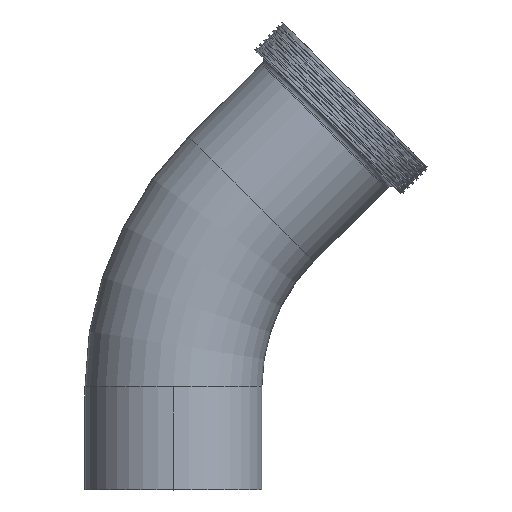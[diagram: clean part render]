
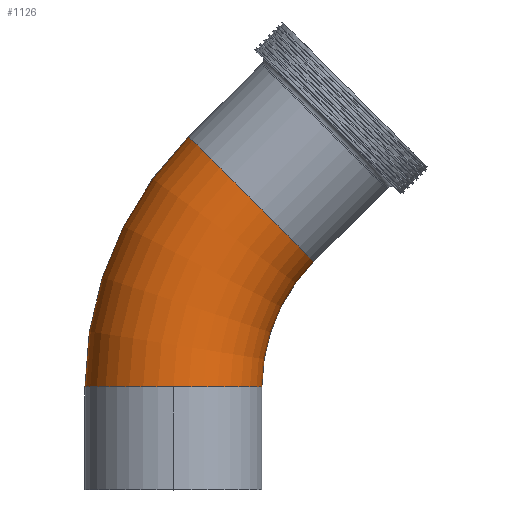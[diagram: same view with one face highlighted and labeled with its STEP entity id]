
A CAD part, top view. The second image highlights one B-rep face of the part: STEP entity #1126.
In plain terms, the highlighted toroidal (fillet/blend) face has major radius 152.4 mm and minor radius 50.8 mm.
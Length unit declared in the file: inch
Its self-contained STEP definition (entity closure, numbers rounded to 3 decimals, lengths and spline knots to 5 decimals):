
#73 = DIRECTION ( 'NONE',  ( -0.707, 0.707, 0. ) ) ;
#258 = ORIENTED_EDGE ( 'NONE', *, *, #944, .F. ) ;
#291 = CARTESIAN_POINT ( 'NONE',  ( 6., 2.32672, 0. ) ) ;
#528 = FACE_OUTER_BOUND ( 'NONE', #2184, .T. ) ;
#554 = CARTESIAN_POINT ( 'NONE',  ( 0., 2.32672, 0. ) ) ;
#565 = DIRECTION ( 'NONE',  ( 1., 0., 0. ) ) ;
#699 = ORIENTED_EDGE ( 'NONE', *, *, #1047, .T. ) ;
#782 = CIRCLE ( 'NONE', #2476, 2. ) ;
#786 = CARTESIAN_POINT ( 'NONE',  ( -2., 2.32672, 0. ) ) ;
#812 = DIRECTION ( 'NONE',  ( 0., 1., 0. ) ) ;
#824 = DIRECTION ( 'NONE',  ( -1., 0., 0. ) ) ;
#872 = EDGE_CURVE ( 'NONE', #1818, #3400, #2206, .T. ) ;
#896 = EDGE_CURVE ( 'NONE', #3400, #3071, #782, .T. ) ;
#944 = EDGE_CURVE ( 'NONE', #2891, #3071, #2118, .T. ) ;
#1047 = EDGE_CURVE ( 'NONE', #2396, #1818, #3406, .T. ) ;
#1112 = EDGE_CURVE ( 'NONE', #2396, #2891, #1245, .T. ) ;
#1113 = DIRECTION ( 'NONE',  ( 0., 0., 1. ) ) ;
#1120 = CARTESIAN_POINT ( 'NONE',  ( 0., 2.32672, 2. ) ) ;
#1126 = ADVANCED_FACE ( 'NONE', ( #528 ), #1957, .T. ) ;
#1245 = CIRCLE ( 'NONE', #2066, 2. ) ;
#1399 = DIRECTION ( 'NONE',  ( 0., 0., 1. ) ) ;
#1668 = DIRECTION ( 'NONE',  ( 0.707, 0.707, 0. ) ) ;
#1818 = VERTEX_POINT ( 'NONE', #786 ) ;
#1876 = CARTESIAN_POINT ( 'NONE',  ( 3.17157, 5.15515, 0. ) ) ;
#1941 = DIRECTION ( 'NONE',  ( 1., 0., 0. ) ) ;
#1957 = TOROIDAL_SURFACE ( 'NONE', #1970, 6., 2. ) ;
#1970 = AXIS2_PLACEMENT_3D ( 'NONE', #2723, #1399, #1941 ) ;
#1989 = ORIENTED_EDGE ( 'NONE', *, *, #896, .T. ) ;
#2066 = AXIS2_PLACEMENT_3D ( 'NONE', #3236, #1668, #73 ) ;
#2118 = CIRCLE ( 'NONE', #2449, 4. ) ;
#2165 = DIRECTION ( 'NONE',  ( 0., 0., 1. ) ) ;
#2184 = EDGE_LOOP ( 'NONE', ( #3094, #699, #2328, #1989, #258 ) ) ;
#2206 = CIRCLE ( 'NONE', #2615, 2. ) ;
#2230 = AXIS2_PLACEMENT_3D ( 'NONE', #2708, #1113, #2966 ) ;
#2328 = ORIENTED_EDGE ( 'NONE', *, *, #872, .T. ) ;
#2396 = VERTEX_POINT ( 'NONE', #2884 ) ;
#2416 = CARTESIAN_POINT ( 'NONE',  ( 0., 2.32672, 0. ) ) ;
#2422 = DIRECTION ( 'NONE',  ( 0., 1., 0. ) ) ;
#2449 = AXIS2_PLACEMENT_3D ( 'NONE', #291, #2165, #565 ) ;
#2476 = AXIS2_PLACEMENT_3D ( 'NONE', #554, #2422, #824 ) ;
#2615 = AXIS2_PLACEMENT_3D ( 'NONE', #2416, #812, #2672 ) ;
#2672 = DIRECTION ( 'NONE',  ( -1., 0., 0. ) ) ;
#2708 = CARTESIAN_POINT ( 'NONE',  ( 6., 2.32672, 0. ) ) ;
#2723 = CARTESIAN_POINT ( 'NONE',  ( 6., 2.32672, 0. ) ) ;
#2884 = CARTESIAN_POINT ( 'NONE',  ( 0.34315, 7.98357, 0. ) ) ;
#2891 = VERTEX_POINT ( 'NONE', #1876 ) ;
#2966 = DIRECTION ( 'NONE',  ( 1., 0., 0. ) ) ;
#3071 = VERTEX_POINT ( 'NONE', #3195 ) ;
#3094 = ORIENTED_EDGE ( 'NONE', *, *, #1112, .F. ) ;
#3195 = CARTESIAN_POINT ( 'NONE',  ( 2., 2.32672, 0. ) ) ;
#3236 = CARTESIAN_POINT ( 'NONE',  ( 1.75736, 6.56936, 0. ) ) ;
#3400 = VERTEX_POINT ( 'NONE', #1120 ) ;
#3406 = CIRCLE ( 'NONE', #2230, 8. ) ;
